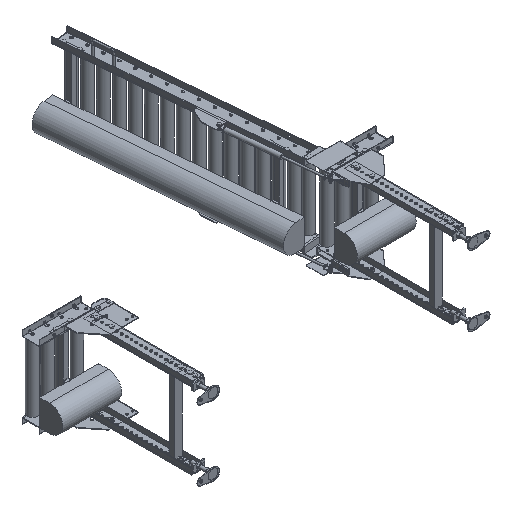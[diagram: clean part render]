
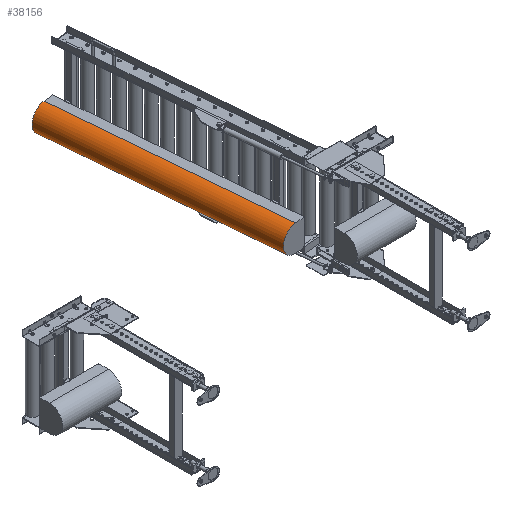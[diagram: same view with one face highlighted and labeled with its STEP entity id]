
A CAD part, isometric view. The second image highlights one B-rep face of the part: STEP entity #38156.
In plain terms, the highlighted cylindrical face has radius 66.89 mm (diameter 133.78 mm), a partial arc.
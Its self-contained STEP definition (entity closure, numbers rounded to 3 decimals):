
#952 = AXIS2_PLACEMENT_3D ( 'NONE', #64843, #5285, #65872 ) ;
#5285 = DIRECTION ( 'NONE',  ( -0.087, 0.996, 0. ) ) ;
#6778 = CARTESIAN_POINT ( 'NONE',  ( -78.917, 18.539, -112.61 ) ) ;
#7017 = VERTEX_POINT ( 'NONE', #28858 ) ;
#7737 = DIRECTION ( 'NONE',  ( 0., 0., -1. ) ) ;
#8004 = AXIS2_PLACEMENT_3D ( 'NONE', #6778, #19317, #61073 ) ;
#8946 = ORIENTED_EDGE ( 'NONE', *, *, #47834, .F. ) ;
#9553 = VECTOR ( 'NONE', #37766, 1000. ) ;
#14836 = CIRCLE ( 'NONE', #48658, 66.89 ) ;
#15563 = ORIENTED_EDGE ( 'NONE', *, *, #41105, .F. ) ;
#16732 = VERTEX_POINT ( 'NONE', #17273 ) ;
#17273 = CARTESIAN_POINT ( 'NONE',  ( -181.863, 1196.047, -179.5 ) ) ;
#18912 = LINE ( 'NONE', #73483, #9553 ) ;
#19317 = DIRECTION ( 'NONE',  ( -0.087, 0.996, 0. ) ) ;
#19503 = DIRECTION ( 'NONE',  ( -0.087, 0.996, 0. ) ) ;
#22501 = CARTESIAN_POINT ( 'NONE',  ( -78.917, 18.539, -45.72 ) ) ;
#25044 = EDGE_LOOP ( 'NONE', ( #8946, #39157, #77378, #15563 ) ) ;
#28858 = CARTESIAN_POINT ( 'NONE',  ( -181.863, 1196.047, -45.72 ) ) ;
#29466 = FACE_OUTER_BOUND ( 'NONE', #25044, .T. ) ;
#31996 = CARTESIAN_POINT ( 'NONE',  ( -181.863, 1196.047, -112.61 ) ) ;
#37766 = DIRECTION ( 'NONE',  ( -0.087, 0.996, 0. ) ) ;
#38156 = ADVANCED_FACE ( 'NONE', ( #29466 ), #49071, .T. ) ;
#39157 = ORIENTED_EDGE ( 'NONE', *, *, #62235, .T. ) ;
#41105 = EDGE_CURVE ( 'NONE', #16732, #7017, #14836, .T. ) ;
#41824 = CARTESIAN_POINT ( 'NONE',  ( -63.444, -158.438, -45.72 ) ) ;
#44212 = VERTEX_POINT ( 'NONE', #68396 ) ;
#47834 = EDGE_CURVE ( 'NONE', #44212, #16732, #18912, .T. ) ;
#47842 = VERTEX_POINT ( 'NONE', #22501 ) ;
#48658 = AXIS2_PLACEMENT_3D ( 'NONE', #31996, #19503, #7737 ) ;
#49071 = CYLINDRICAL_SURFACE ( 'NONE', #952, 66.89 ) ;
#56344 = VECTOR ( 'NONE', #71303, 1000. ) ;
#61073 = DIRECTION ( 'NONE',  ( 0., 0., -1. ) ) ;
#62015 = EDGE_CURVE ( 'NONE', #47842, #7017, #64739, .T. ) ;
#62235 = EDGE_CURVE ( 'NONE', #44212, #47842, #64659, .T. ) ;
#64659 = CIRCLE ( 'NONE', #8004, 66.89 ) ;
#64739 = LINE ( 'NONE', #41824, #56344 ) ;
#64843 = CARTESIAN_POINT ( 'NONE',  ( -63.444, -158.438, -112.61 ) ) ;
#65872 = DIRECTION ( 'NONE',  ( 0., 0., 1. ) ) ;
#68396 = CARTESIAN_POINT ( 'NONE',  ( -78.917, 18.539, -179.5 ) ) ;
#71303 = DIRECTION ( 'NONE',  ( -0.087, 0.996, 0. ) ) ;
#73483 = CARTESIAN_POINT ( 'NONE',  ( -63.444, -158.438, -179.5 ) ) ;
#77378 = ORIENTED_EDGE ( 'NONE', *, *, #62015, .T. ) ;
